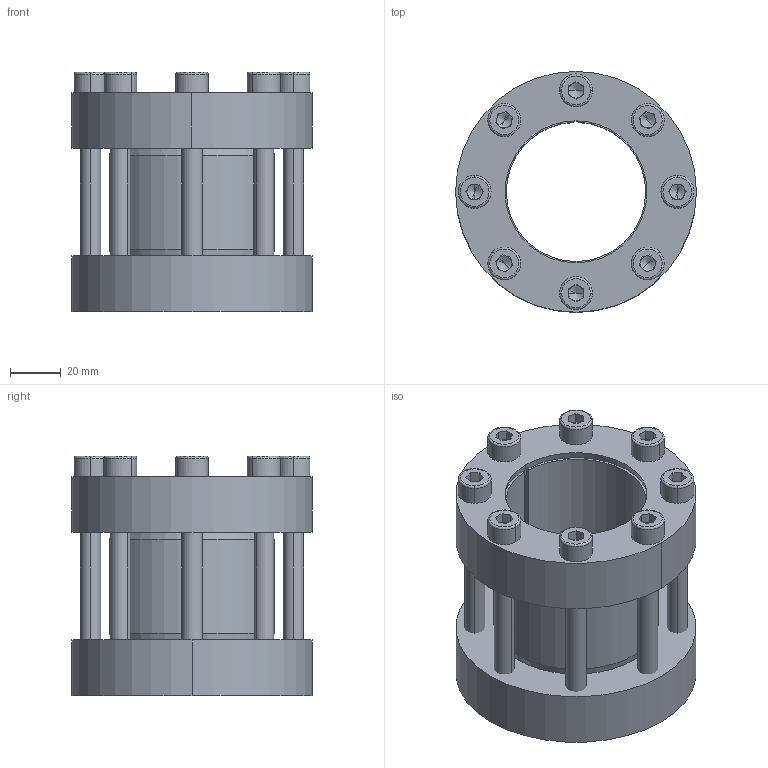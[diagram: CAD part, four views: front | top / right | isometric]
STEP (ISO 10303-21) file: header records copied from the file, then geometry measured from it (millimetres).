
FILE_DESCRIPTION (( 'STEP AP214' ), '1' );
FILE_NAME ('CONEX-M-55x95.step', '2013-04-06T13:25:43', ( 'Pc' ), ( '' ), 'SwSTEP 2.0', 'SolidWorks 2013', '' );
FILE_SCHEMA (( 'AUTOMOTIVE_DESIGN' ));
Length unit declared in the file: millimetre
Products named in the file (1): CONEX-M-55x95
Bounding box: 95 x 95 x 94.49 mm (x, y, z)
Volume: 267809.1 mm3; surface area: 97722.2 mm2
Topology: 11 solids, 11 shells, 276 faces, 622 edges, 368 vertices
Faces by surface type: plane 128, cylinder 74, cone 42, torus 32
Entity records: 10807 total; most frequent: DIRECTION 1446, CARTESIAN_POINT 1278, ORIENTED_EDGE 1212, EDGE_CURVE 606, AXIS2_PLACEMENT_3D 567, VERTEX_POINT 368, EDGE_LOOP 328, VECTOR 312
